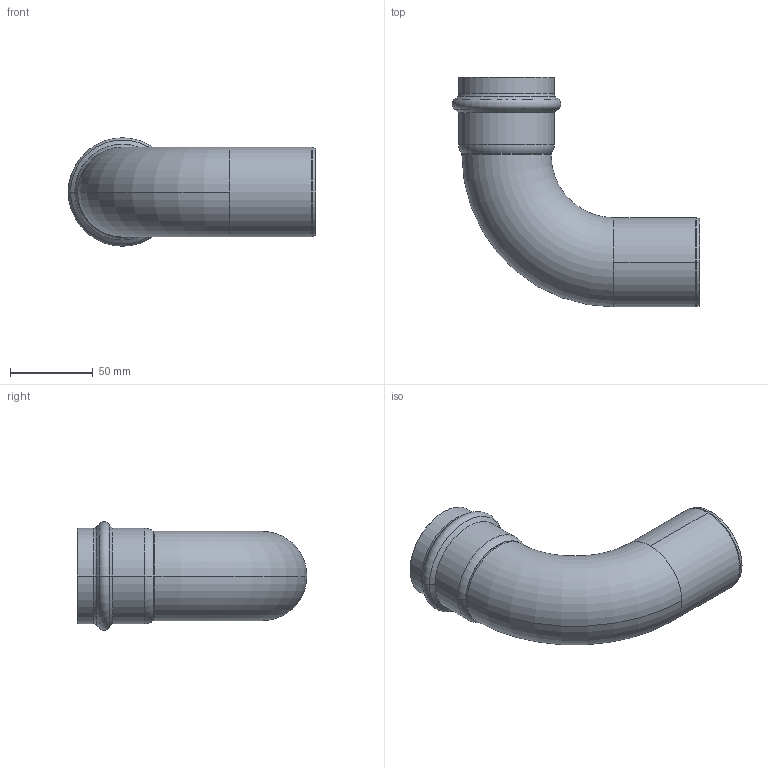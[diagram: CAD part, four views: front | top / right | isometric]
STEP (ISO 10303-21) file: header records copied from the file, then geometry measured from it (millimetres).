
FILE_DESCRIPTION(('CoCreate Modeling STEP Export'),'2;1');
FILE_NAME('8001VW54.stp','2013-01-29T14:04:41',(''),(''),'CoCreate Modeling STEP processor for AP214 (Solid Model)','CoCreate Modeling 17.00A 17-Jun-2010 (C) Parametric Technology GmbH','');
FILE_SCHEMA(('AUTOMOTIVE_DESIGN { 1 0 10303 214 1 1 1 1 }'));
Length unit declared in the file: millimetre
Products named in the file (1): 8001VW54
Bounding box: 149.84 x 139.07 x 65.68 mm (x, y, z)
Volume: 62552.1 mm3; surface area: 69135 mm2
Topology: 1 solids, 1 shells, 60 faces, 134 edges, 78 vertices
Faces by surface type: cone 20, cylinder 18, torus 18, plane 4
Entity records: 1348 total; most frequent: ORIENTED_EDGE 268, DIRECTION 208, CARTESIAN_POINT 201, EDGE_CURVE 134, AXIS2_PLACEMENT_3D 85, VERTEX_POINT 78, EDGE_LOOP 64, FACE_OUTER_BOUND 60
